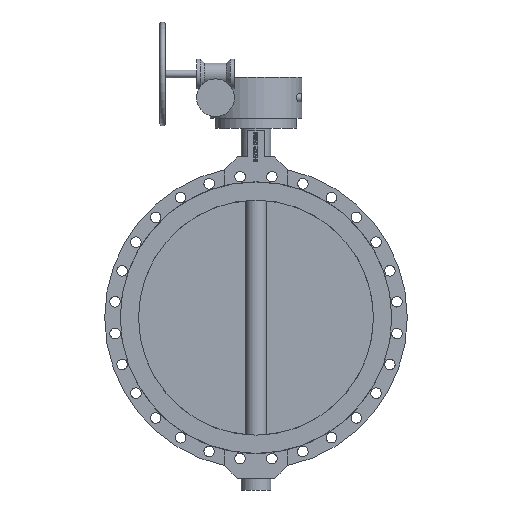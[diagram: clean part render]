
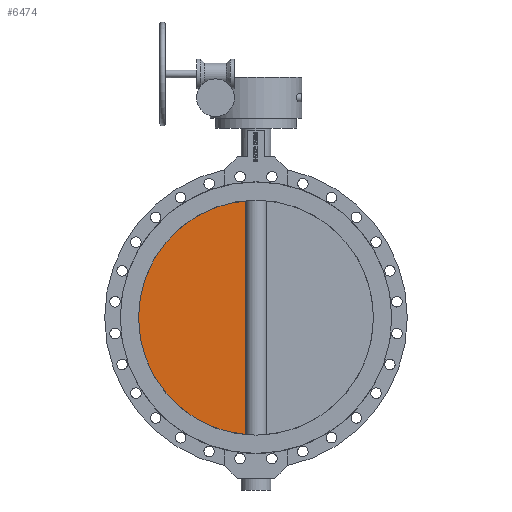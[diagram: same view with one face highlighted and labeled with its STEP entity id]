
A CAD part, left-side view. The second image highlights one B-rep face of the part: STEP entity #6474.
In plain terms, the highlighted planar face has unit normal (-1, 0, 0).
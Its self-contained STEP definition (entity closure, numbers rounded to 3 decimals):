
#6474=ADVANCED_FACE('',(#11965),#11967,.F.);
#11965=FACE_BOUND('',#11966,.T.);
#11966=EDGE_LOOP('',(#15850,#15851,#15852));
#11967=PLANE('',#11968);
#11968=AXIS2_PLACEMENT_3D('',#11969,#11970,#11971);
#11969=CARTESIAN_POINT('',(-15.,0.,0.));
#11970=DIRECTION('',(1.,0.,0.));
#11971=DIRECTION('',(0.,1.,0.));
#15850=ORIENTED_EDGE('',*,*,#18017,.T.);
#15851=ORIENTED_EDGE('',*,*,#17661,.T.);
#15852=ORIENTED_EDGE('',*,*,#17665,.T.);
#17661=EDGE_CURVE('',#20808,#20809,#20810,.F.);
#17665=EDGE_CURVE('',#20809,#20815,#20817,.F.);
#18017=EDGE_CURVE('',#20815,#20808,#21350,.F.);
#20808=VERTEX_POINT('',#29973);
#20809=VERTEX_POINT('',#29974);
#20810=CIRCLE('',#29975,435.);
#20815=VERTEX_POINT('',#30032);
#20817=CIRCLE('',#30080,435.);
#21350=LINE('',#32581,#32582);
#29973=CARTESIAN_POINT('',(-15.,37.081,433.417));
#29974=CARTESIAN_POINT('',(-15.,435.,0.));
#29975=AXIS2_PLACEMENT_3D('',#29976,#29977,#29978);
#29976=CARTESIAN_POINT('',(-15.,0.,0.));
#29977=DIRECTION('',(1.,0.,0.));
#29978=DIRECTION('',(0.,1.,0.));
#30032=CARTESIAN_POINT('',(-15.,37.081,-433.417));
#30080=AXIS2_PLACEMENT_3D('',#30081,#30082,#30083);
#30081=CARTESIAN_POINT('',(-15.,0.,0.));
#30082=DIRECTION('',(1.,0.,0.));
#30083=DIRECTION('',(0.,0.085,-0.996));
#32581=CARTESIAN_POINT('',(-15.,37.081,433.417));
#32582=VECTOR('',#32583,1.);
#32583=DIRECTION('',(0.,0.,-1.));
